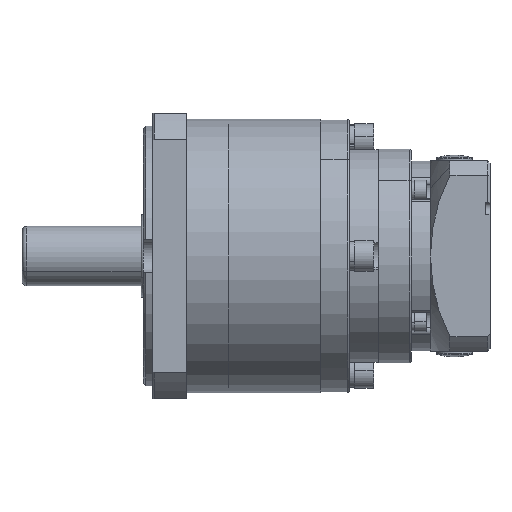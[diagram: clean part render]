
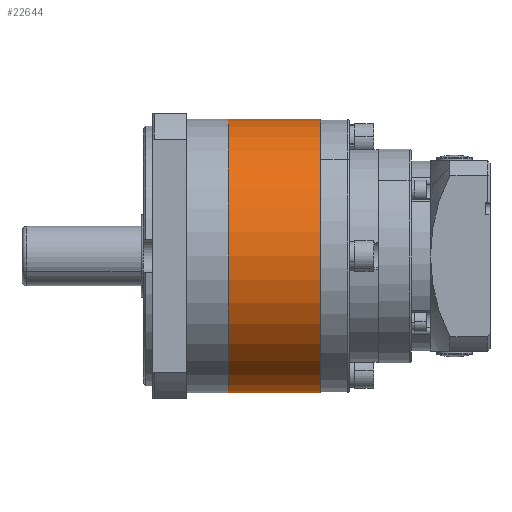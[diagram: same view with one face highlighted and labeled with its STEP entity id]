
A CAD part, front view. The second image highlights one B-rep face of the part: STEP entity #22644.
In plain terms, the highlighted cylindrical face has radius 57.5 mm (diameter 115 mm), a partial arc.
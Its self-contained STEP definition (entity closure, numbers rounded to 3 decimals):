
#845 = CARTESIAN_POINT ( 'NONE',  ( 35.5, 0., 57.5 ) ) ;
#1227 = ORIENTED_EDGE ( 'NONE', *, *, #19288, .T. ) ;
#2257 = CARTESIAN_POINT ( 'NONE',  ( 35.5, 0., -57.5 ) ) ;
#2488 = CARTESIAN_POINT ( 'NONE',  ( 74.5, 0., 0. ) ) ;
#6176 = DIRECTION ( 'NONE',  ( -1., 0., 0. ) ) ;
#6199 = ORIENTED_EDGE ( 'NONE', *, *, #42918, .T. ) ;
#7782 = VECTOR ( 'NONE', #43725, 1000. ) ;
#9209 = AXIS2_PLACEMENT_3D ( 'NONE', #36691, #18632, #43086 ) ;
#9290 = AXIS2_PLACEMENT_3D ( 'NONE', #2488, #30098, #37269 ) ;
#9803 = EDGE_CURVE ( 'NONE', #26732, #30143, #36327, .T. ) ;
#11499 = FACE_OUTER_BOUND ( 'NONE', #42623, .T. ) ;
#14463 = VECTOR ( 'NONE', #39219, 1000. ) ;
#17466 = CARTESIAN_POINT ( 'NONE',  ( 35.5, 0., -57.5 ) ) ;
#17496 = VERTEX_POINT ( 'NONE', #42120 ) ;
#17627 = EDGE_CURVE ( 'NONE', #30143, #22182, #22066, .T. ) ;
#18632 = DIRECTION ( 'NONE',  ( 1., 0., 0. ) ) ;
#19288 = EDGE_CURVE ( 'NONE', #26732, #17496, #22493, .T. ) ;
#20322 = CARTESIAN_POINT ( 'NONE',  ( 35.5, 0., 0. ) ) ;
#22066 = LINE ( 'NONE', #42548, #14463 ) ;
#22093 = CIRCLE ( 'NONE', #9290, 57.5 ) ;
#22182 = VERTEX_POINT ( 'NONE', #29583 ) ;
#22493 = LINE ( 'NONE', #2257, #7782 ) ;
#22644 = ADVANCED_FACE ( 'NONE', ( #11499 ), #30036, .T. ) ;
#26321 = AXIS2_PLACEMENT_3D ( 'NONE', #20322, #6176, #34094 ) ;
#26732 = VERTEX_POINT ( 'NONE', #17466 ) ;
#27071 = ORIENTED_EDGE ( 'NONE', *, *, #9803, .F. ) ;
#29583 = CARTESIAN_POINT ( 'NONE',  ( 74.5, 0., 57.5 ) ) ;
#30036 = CYLINDRICAL_SURFACE ( 'NONE', #9209, 57.5 ) ;
#30098 = DIRECTION ( 'NONE',  ( -1., 0., 0. ) ) ;
#30143 = VERTEX_POINT ( 'NONE', #845 ) ;
#34094 = DIRECTION ( 'NONE',  ( 0., 0., 1. ) ) ;
#36327 = CIRCLE ( 'NONE', #26321, 57.5 ) ;
#36691 = CARTESIAN_POINT ( 'NONE',  ( 35.5, 0., 0. ) ) ;
#37269 = DIRECTION ( 'NONE',  ( 0., 0., 1. ) ) ;
#39219 = DIRECTION ( 'NONE',  ( 1., 0., 0. ) ) ;
#41317 = ORIENTED_EDGE ( 'NONE', *, *, #17627, .F. ) ;
#42120 = CARTESIAN_POINT ( 'NONE',  ( 74.5, 0., -57.5 ) ) ;
#42548 = CARTESIAN_POINT ( 'NONE',  ( 35.5, 0., 57.5 ) ) ;
#42623 = EDGE_LOOP ( 'NONE', ( #41317, #27071, #1227, #6199 ) ) ;
#42918 = EDGE_CURVE ( 'NONE', #17496, #22182, #22093, .T. ) ;
#43086 = DIRECTION ( 'NONE',  ( 0., 0., -1. ) ) ;
#43725 = DIRECTION ( 'NONE',  ( 1., 0., 0. ) ) ;
